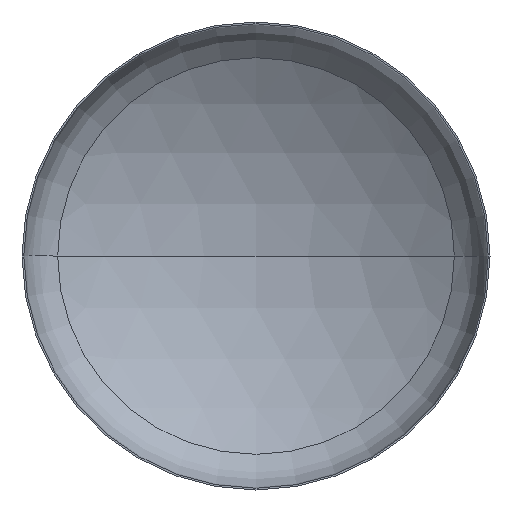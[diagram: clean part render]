
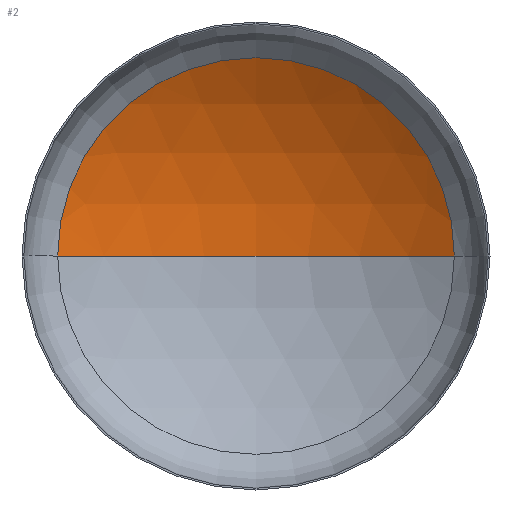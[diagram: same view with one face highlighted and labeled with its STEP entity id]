
A CAD part, front view. The second image highlights one B-rep face of the part: STEP entity #2.
In plain terms, the highlighted spherical face has radius 5200 mm.
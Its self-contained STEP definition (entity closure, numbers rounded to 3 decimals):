
#2 = ADVANCED_FACE ( 'NONE', ( #107 ), #252, .F. ) ;
#34 = CARTESIAN_POINT ( 'NONE',  ( 0., -3487.215, 0. ) ) ;
#36 = VERTEX_POINT ( 'NONE', #282 ) ;
#45 = ORIENTED_EDGE ( 'NONE', *, *, #302, .T. ) ;
#56 = ORIENTED_EDGE ( 'NONE', *, *, #280, .T. ) ;
#75 = VERTEX_POINT ( 'NONE', #244 ) ;
#84 = EDGE_LOOP ( 'NONE', ( #96, #56, #45 ) ) ;
#96 = ORIENTED_EDGE ( 'NONE', *, *, #264, .F. ) ;
#107 = FACE_OUTER_BOUND ( 'NONE', #84, .T. ) ;
#112 = CARTESIAN_POINT ( 'NONE',  ( 0., -3487.215, 0. ) ) ;
#116 = DIRECTION ( 'NONE',  ( 0., 0., -1. ) ) ;
#119 = DIRECTION ( 'NONE',  ( -1., 0., 0. ) ) ;
#133 = CARTESIAN_POINT ( 'NONE',  ( 0., 923.146, 0. ) ) ;
#135 = DIRECTION ( 'NONE',  ( 1., 0., 0. ) ) ;
#137 = AXIS2_PLACEMENT_3D ( 'NONE', #133, #139, #135 ) ;
#139 = DIRECTION ( 'NONE',  ( 0., -1., 0. ) ) ;
#155 = AXIS2_PLACEMENT_3D ( 'NONE', #112, #116, #119 ) ;
#162 = DIRECTION ( 'NONE',  ( 0., 0., 1. ) ) ;
#163 = DIRECTION ( 'NONE',  ( 1., 0., 0. ) ) ;
#165 = AXIS2_PLACEMENT_3D ( 'NONE', #256, #288, #287 ) ;
#200 = CIRCLE ( 'NONE', #402, 5200. ) ;
#237 = CARTESIAN_POINT ( 'NONE',  ( 2754.762, 923.146, 0. ) ) ;
#244 = CARTESIAN_POINT ( 'NONE',  ( 0., 1712.785, 0. ) ) ;
#252 = SPHERICAL_SURFACE ( 'NONE', #165, 5200. ) ;
#256 = CARTESIAN_POINT ( 'NONE',  ( 0., -3487.215, 0. ) ) ;
#259 = VERTEX_POINT ( 'NONE', #237 ) ;
#264 = EDGE_CURVE ( 'NONE', #75, #36, #200, .T. ) ;
#280 = EDGE_CURVE ( 'NONE', #75, #259, #391, .T. ) ;
#282 = CARTESIAN_POINT ( 'NONE',  ( -2754.762, 923.146, 0. ) ) ;
#287 = DIRECTION ( 'NONE',  ( -1., 0., 0. ) ) ;
#288 = DIRECTION ( 'NONE',  ( 0., 0., -1. ) ) ;
#302 = EDGE_CURVE ( 'NONE', #259, #36, #342, .T. ) ;
#342 = CIRCLE ( 'NONE', #137, 2754.762 ) ;
#391 = CIRCLE ( 'NONE', #155, 5200. ) ;
#402 = AXIS2_PLACEMENT_3D ( 'NONE', #34, #162, #163 ) ;
